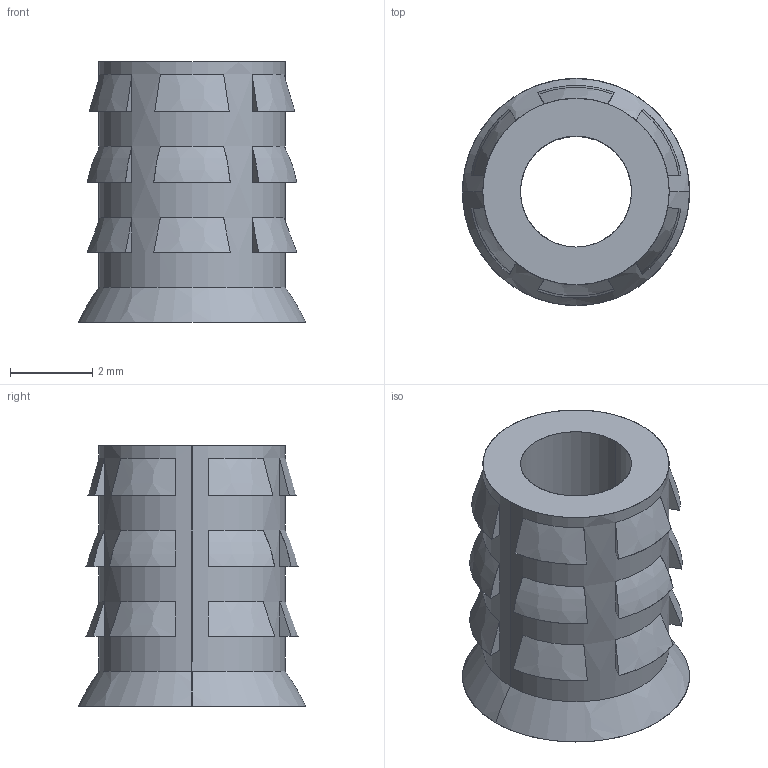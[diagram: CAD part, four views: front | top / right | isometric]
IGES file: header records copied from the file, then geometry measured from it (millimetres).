
Start section: SolidWorks IGES file using analytic representation for surfaces
Global section: file name: G:\thermofab project\INSERT\insert project\INSERT 3D\insert 6-32.IGS; native system: SolidWorks 2015; preprocessor: SolidWorks 2015; author: Administrator; date: 170809.193621; units: millimetre
Bounding box: 5.54 x 5.54 x 6.35 mm (x, y, z)
Surface area: 194.4 mm2 (no closed solid volume)
Topology: 0 solids, 0 shells, 82 faces, 604 edges, 604 vertices
Faces by surface type: bspline 76, revolution 6
